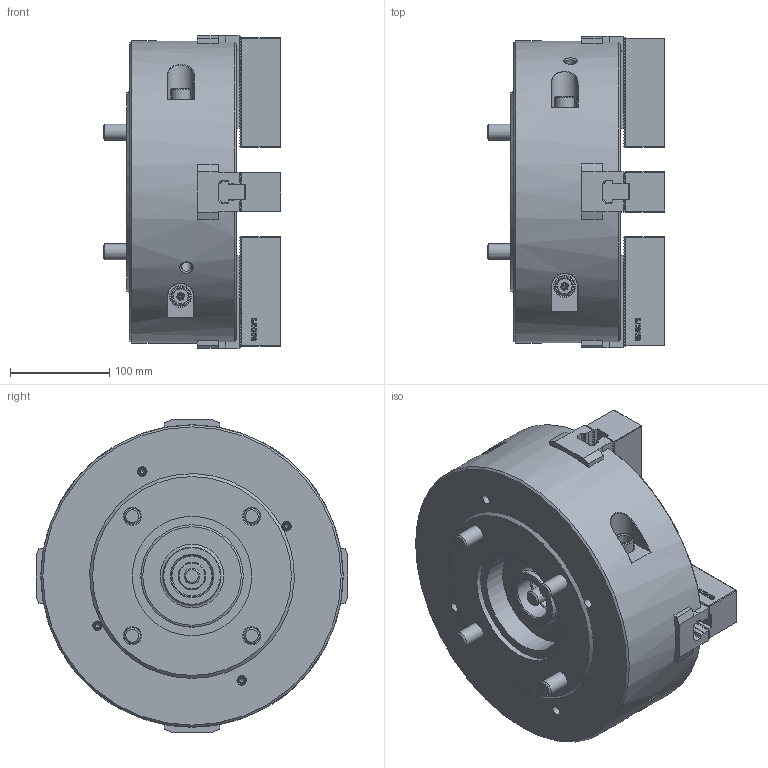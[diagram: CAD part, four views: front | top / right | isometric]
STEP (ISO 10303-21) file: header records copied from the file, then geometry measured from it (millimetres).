
FILE_DESCRIPTION (( 'STEP AP214' ), '1' );
FILE_NAME ('DT1_HW-12_OUTSIDE_VIEW_UC.STEP', '2024-05-10T00:38:59', ( '' ), ( '' ), 'SwSTEP 2.0', 'SolidWorks 2022', '' );
FILE_SCHEMA (( 'AUTOMOTIVE_DESIGN' ));
Length unit declared in the file: millimetre
Products named in the file (10): DT1_HW-12_DRAWSCREW^DT1_HW-12_ﾃﾞﾌｫﾙﾄ; DT1_HW-12_M12x35^DT1_HW-12_ﾃﾞﾌｫﾙﾄ; DT1_HW-12_DN^DT1_HW-12_ﾃﾞﾌｫﾙﾄ; DT1_HW-12_BASE^DT1_HW-12_ﾃﾞﾌｫﾙﾄ; DT1_HW-12_M16x115^DT1_HW-12_ﾃﾞﾌｫﾙﾄ; DT1_HW-12_M5x10^DT1_HW-12_ﾃﾞﾌｫﾙﾄ; DT1_HW-12_OUTSIDE_VIEW_UC; DT1_HW-12_SOFTJAW^DT1_HW-12_ﾃﾞﾌｫﾙﾄ; DT1_HW-12_TNUT^DT1_HW-12_ﾃﾞﾌｫﾙﾄ; DT1_HW-12_COVER^DT1_HW-12_ﾃﾞﾌｫﾙﾄ
Assembly tree (28 placements, depth 2):
  DT1_HW-12_OUTSIDE_VIEW_UC
    DT1_HW-12_SOFTJAW^DT1_HW-12_ﾃﾞﾌｫﾙﾄ  x4
    DT1_HW-12_TNUT^DT1_HW-12_ﾃﾞﾌｫﾙﾄ  x4
    DT1_HW-12_COVER^DT1_HW-12_ﾃﾞﾌｫﾙﾄ
    DT1_HW-12_DRAWSCREW^DT1_HW-12_ﾃﾞﾌｫﾙﾄ
    DT1_HW-12_DN^DT1_HW-12_ﾃﾞﾌｫﾙﾄ
    DT1_HW-12_BASE^DT1_HW-12_ﾃﾞﾌｫﾙﾄ
    DT1_HW-12_M16x115^DT1_HW-12_ﾃﾞﾌｫﾙﾄ  x4
    DT1_HW-12_M12x35^DT1_HW-12_ﾃﾞﾌｫﾙﾄ  x8
    DT1_HW-12_M5x10^DT1_HW-12_ﾃﾞﾌｫﾙﾄ  x4
Bounding box: 179 x 313.6 x 313.97 mm (x, y, z)
Volume: 8179021.6 mm3; surface area: 592928.1 mm2
Topology: 28 solids, 38 shells, 4773 faces, 13403 edges, 8859 vertices
Faces by surface type: plane 3312, cylinder 760, bspline 387, cone 279, torus 31, sphere 4
Full cylindrical faces by diameter (mm): 2 x4, 4.2 x4, 5 x4, 5.5 x4, 6.8 x4, 8.72 x4, 9.5 x8, 10.2 x10, 12 x8, 13 x8, 13.27 x4, 13.835 x1, 14 x5, 15 x4, 16 x6, 17 x4, 18.27 x8, 19 x8, 19.6 x4, 20.5 x4, 24.33 x5, 25 x5, 28 x1, 40.376 x1, 42 x1, 44 x1, 58 x1, 103 x1, 120 x1, 304 x1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
Entity records: 111029 total; most frequent: CARTESIAN_POINT 32402, ORIENTED_EDGE 17198, DIRECTION 14356, EDGE_CURVE 8599, LINE 6602, VECTOR 6602, VERTEX_POINT 5791, AXIS2_PLACEMENT_3D 3877
